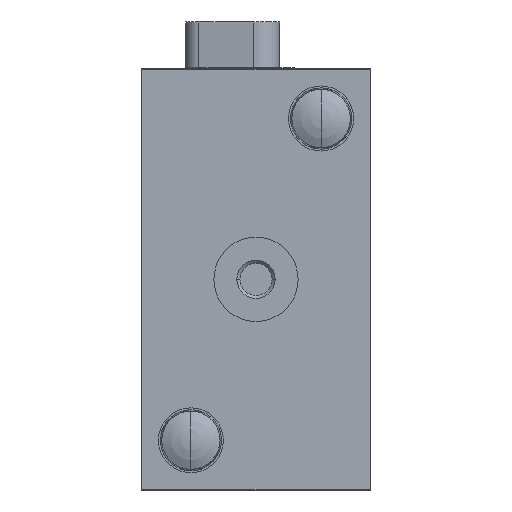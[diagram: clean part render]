
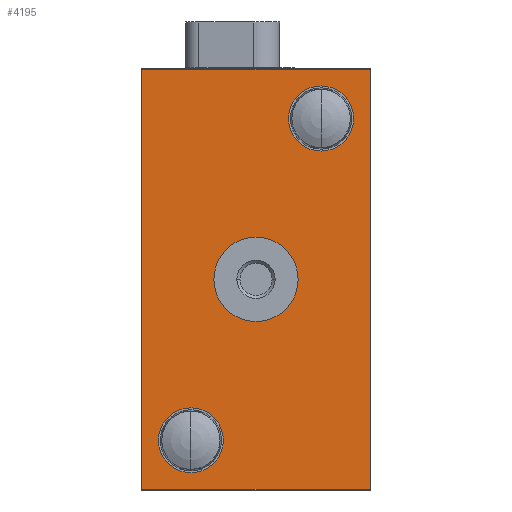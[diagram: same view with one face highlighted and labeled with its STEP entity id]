
A CAD part, front view. The second image highlights one B-rep face of the part: STEP entity #4195.
In plain terms, the highlighted planar face has unit normal (0, -1, 0).
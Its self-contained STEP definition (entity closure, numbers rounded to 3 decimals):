
#1574=DIRECTION('',(1.,0.,0.));
#1575=VECTOR('',#1574,29.8);
#1576=CARTESIAN_POINT('',(-14.9,-50.5,-27.4));
#1577=LINE('',#1576,#1575);
#1578=DIRECTION('',(0.,0.,-1.));
#1579=VECTOR('',#1578,54.8);
#1580=CARTESIAN_POINT('',(-14.9,-50.5,27.4));
#1581=LINE('',#1580,#1579);
#1582=DIRECTION('',(-1.,0.,0.));
#1583=VECTOR('',#1582,29.8);
#1584=CARTESIAN_POINT('',(14.9,-50.5,27.4));
#1585=LINE('',#1584,#1583);
#1586=DIRECTION('',(0.,0.,1.));
#1587=VECTOR('',#1586,54.8);
#1588=CARTESIAN_POINT('',(14.9,-50.5,-27.4));
#1589=LINE('',#1588,#1587);
#1590=CARTESIAN_POINT('',(0.,-50.5,0.));
#1591=DIRECTION('',(0.,1.,0.));
#1592=DIRECTION('',(1.,0.,0.));
#1593=AXIS2_PLACEMENT_3D('',#1590,#1591,#1592);
#1595=CARTESIAN_POINT('',(0.,-50.5,0.));
#1596=DIRECTION('',(0.,1.,0.));
#1597=DIRECTION('',(-1.,0.,0.));
#1598=AXIS2_PLACEMENT_3D('',#1595,#1596,#1597);
#1600=CARTESIAN_POINT('',(-8.5,-50.5,-21.011));
#1601=DIRECTION('',(0.,1.,0.));
#1602=DIRECTION('',(0.,0.,-1.));
#1603=AXIS2_PLACEMENT_3D('',#1600,#1601,#1602);
#1605=CARTESIAN_POINT('',(-8.5,-50.5,-21.011));
#1606=DIRECTION('',(0.,1.,0.));
#1607=DIRECTION('',(0.,0.,1.));
#1608=AXIS2_PLACEMENT_3D('',#1605,#1606,#1607);
#1610=CARTESIAN_POINT('',(8.5,-50.5,21.));
#1611=DIRECTION('',(0.,1.,0.));
#1612=DIRECTION('',(0.,0.,-1.));
#1613=AXIS2_PLACEMENT_3D('',#1610,#1611,#1612);
#1615=CARTESIAN_POINT('',(8.5,-50.5,21.));
#1616=DIRECTION('',(0.,1.,0.));
#1617=DIRECTION('',(0.,0.,1.));
#1618=AXIS2_PLACEMENT_3D('',#1615,#1616,#1617);
#1872=CARTESIAN_POINT('',(-14.9,-50.5,-27.4));
#1873=CARTESIAN_POINT('',(14.9,-50.5,-27.4));
#1874=VERTEX_POINT('',#1872);
#1875=VERTEX_POINT('',#1873);
#1876=CARTESIAN_POINT('',(14.9,-50.5,27.4));
#1877=VERTEX_POINT('',#1876);
#1878=CARTESIAN_POINT('',(-14.9,-50.5,27.4));
#1879=VERTEX_POINT('',#1878);
#1920=CARTESIAN_POINT('',(5.5,-50.5,0.));
#1921=VERTEX_POINT('',#1920);
#1922=CARTESIAN_POINT('',(-5.5,-50.5,0.));
#1923=VERTEX_POINT('',#1922);
#1938=CARTESIAN_POINT('',(-8.5,-50.5,-25.25));
#1939=VERTEX_POINT('',#1938);
#1940=CARTESIAN_POINT('',(-8.5,-50.5,-16.773));
#1941=VERTEX_POINT('',#1940);
#1956=CARTESIAN_POINT('',(8.5,-50.5,16.75));
#1957=VERTEX_POINT('',#1956);
#1958=CARTESIAN_POINT('',(8.5,-50.5,25.25));
#1959=VERTEX_POINT('',#1958);
#4166=CARTESIAN_POINT('',(0.,-50.5,0.));
#4167=DIRECTION('',(0.,1.,0.));
#4168=DIRECTION('',(0.,0.,1.));
#4169=AXIS2_PLACEMENT_3D('',#4166,#4167,#4168);
#4170=PLANE('',#4169);
#4171=ORIENTED_EDGE('',*,*,#4118,.F.);
#4172=ORIENTED_EDGE('',*,*,#4133,.F.);
#4173=ORIENTED_EDGE('',*,*,#4147,.F.);
#4174=ORIENTED_EDGE('',*,*,#4160,.F.);
#4175=EDGE_LOOP('',(#4171,#4172,#4173,#4174));
#4176=FACE_OUTER_BOUND('',#4175,.F.);
#4178=ORIENTED_EDGE('',*,*,#4177,.F.);
#4180=ORIENTED_EDGE('',*,*,#4179,.F.);
#4181=EDGE_LOOP('',(#4178,#4180));
#4182=FACE_BOUND('',#4181,.F.);
#4184=ORIENTED_EDGE('',*,*,#4183,.F.);
#4186=ORIENTED_EDGE('',*,*,#4185,.F.);
#4187=EDGE_LOOP('',(#4184,#4186));
#4188=FACE_BOUND('',#4187,.F.);
#4190=ORIENTED_EDGE('',*,*,#4189,.F.);
#4192=ORIENTED_EDGE('',*,*,#4191,.F.);
#4193=EDGE_LOOP('',(#4190,#4192));
#4194=FACE_BOUND('',#4193,.F.);
#4195=ADVANCED_FACE('',(#4176,#4182,#4188,#4194),#4170,.F.);
#1594=CIRCLE('',#1593,5.5);
#1599=CIRCLE('',#1598,5.5);
#1604=CIRCLE('',#1603,4.239);
#1609=CIRCLE('',#1608,4.239);
#1614=CIRCLE('',#1613,4.25);
#1619=CIRCLE('',#1618,4.25);
#4118=EDGE_CURVE('',#1874,#1875,#1577,.T.);
#4133=EDGE_CURVE('',#1879,#1874,#1581,.T.);
#4147=EDGE_CURVE('',#1877,#1879,#1585,.T.);
#4160=EDGE_CURVE('',#1875,#1877,#1589,.T.);
#4177=EDGE_CURVE('',#1921,#1923,#1594,.T.);
#4179=EDGE_CURVE('',#1923,#1921,#1599,.T.);
#4183=EDGE_CURVE('',#1939,#1941,#1604,.T.);
#4185=EDGE_CURVE('',#1941,#1939,#1609,.T.);
#4189=EDGE_CURVE('',#1957,#1959,#1614,.T.);
#4191=EDGE_CURVE('',#1959,#1957,#1619,.T.);
